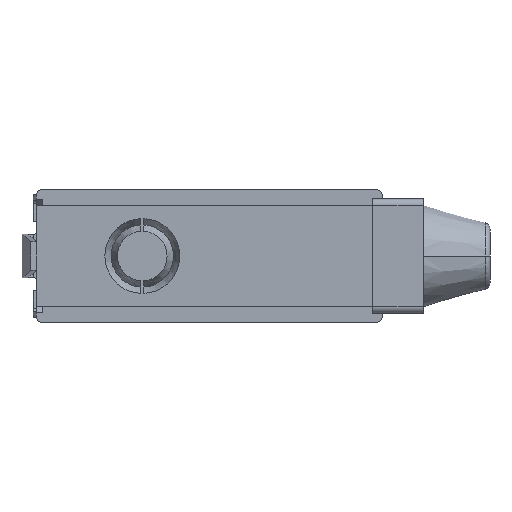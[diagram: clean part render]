
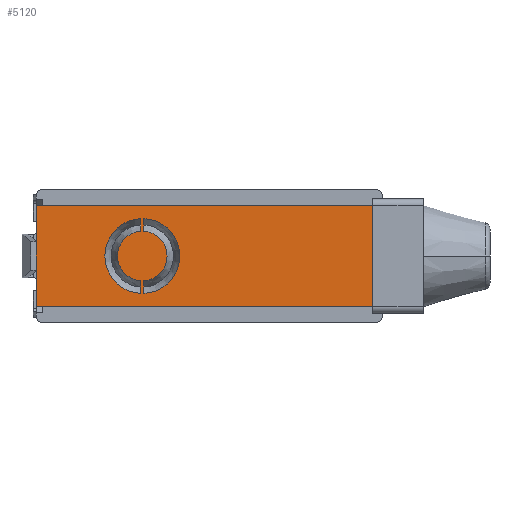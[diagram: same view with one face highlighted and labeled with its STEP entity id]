
A CAD part, front view. The second image highlights one B-rep face of the part: STEP entity #5120.
In plain terms, the highlighted planar face has unit normal (0, -1, 0).
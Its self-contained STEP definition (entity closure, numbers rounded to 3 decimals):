
#33 = EDGE_CURVE ( 'NONE', #3273, #3270, #4090, .T. ) ;
#34 = EDGE_CURVE ( 'NONE', #3379, #3377, #2388, .T. ) ;
#55 = EDGE_CURVE ( 'NONE', #3381, #3380, #2391, .T. ) ;
#63 = EDGE_CURVE ( 'NONE', #3380, #3377, #4185, .T. ) ;
#69 = EDGE_CURVE ( 'NONE', #3268, #3272, #4203, .T. ) ;
#73 = EDGE_CURVE ( 'NONE', #3325, #3328, #4215, .T. ) ;
#86 = EDGE_CURVE ( 'NONE', #3280, #3328, #4254, .T. ) ;
#87 = EDGE_CURVE ( 'NONE', #3285, #3325, #4257, .T. ) ;
#123 = EDGE_CURVE ( 'NONE', #3379, #3381, #4365, .T. ) ;
#168 = VECTOR ( 'NONE', #4367, 1000. ) ;
#479 = AXIS2_PLACEMENT_3D ( 'NONE', #4086, #4093, #4094 ) ;
#480 = VECTOR ( 'NONE', #4092, 1000. ) ;
#1027 = ORIENTED_EDGE ( 'NONE', *, *, #69, .T. ) ;
#1028 = ORIENTED_EDGE ( 'NONE', *, *, #33, .T. ) ;
#1029 = ORIENTED_EDGE ( 'NONE', *, *, #1307, .F. ) ;
#1030 = ORIENTED_EDGE ( 'NONE', *, *, #123, .T. ) ;
#1031 = ORIENTED_EDGE ( 'NONE', *, *, #1274, .T. ) ;
#1032 = ORIENTED_EDGE ( 'NONE', *, *, #63, .T. ) ;
#1033 = ORIENTED_EDGE ( 'NONE', *, *, #34, .F. ) ;
#1034 = ORIENTED_EDGE ( 'NONE', *, *, #87, .T. ) ;
#1035 = ORIENTED_EDGE ( 'NONE', *, *, #55, .T. ) ;
#1036 = ORIENTED_EDGE ( 'NONE', *, *, #73, .T. ) ;
#1037 = ORIENTED_EDGE ( 'NONE', *, *, #86, .F. ) ;
#1038 = ORIENTED_EDGE ( 'NONE', *, *, #1296, .F. ) ;
#1274 = EDGE_CURVE ( 'NONE', #3272, #3273, #2420, .T. ) ;
#1296 = EDGE_CURVE ( 'NONE', #3285, #3280, #4581, .T. ) ;
#1307 = EDGE_CURVE ( 'NONE', #3268, #3270, #2429, .T. ) ;
#1344 = VECTOR ( 'NONE', #4187, 1000. ) ;
#1350 = VECTOR ( 'NONE', #4205, 1000. ) ;
#1354 = VECTOR ( 'NONE', #4217, 1000. ) ;
#1667 = AXIS2_PLACEMENT_3D ( 'NONE', #4605, #4618, #4619 ) ;
#1880 = AXIS2_PLACEMENT_3D ( 'NONE', #4513, #4514, #4515 ) ;
#1903 = VECTOR ( 'NONE', #4583, 1000. ) ;
#2388 = CIRCLE ( 'NONE', #479, 5.9 ) ;
#2391 = CIRCLE ( 'NONE', #17194, 3.9 ) ;
#2420 = CIRCLE ( 'NONE', #1880, 3.9 ) ;
#2429 = CIRCLE ( 'NONE', #1667, 5.9 ) ;
#3268 = VERTEX_POINT ( 'NONE', #14365 ) ;
#3270 = VERTEX_POINT ( 'NONE', #14367 ) ;
#3272 = VERTEX_POINT ( 'NONE', #14369 ) ;
#3273 = VERTEX_POINT ( 'NONE', #14370 ) ;
#3280 = VERTEX_POINT ( 'NONE', #14377 ) ;
#3285 = VERTEX_POINT ( 'NONE', #14382 ) ;
#3325 = VERTEX_POINT ( 'NONE', #14422 ) ;
#3328 = VERTEX_POINT ( 'NONE', #14425 ) ;
#3377 = VERTEX_POINT ( 'NONE', #14474 ) ;
#3379 = VERTEX_POINT ( 'NONE', #14476 ) ;
#3380 = VERTEX_POINT ( 'NONE', #14477 ) ;
#3381 = VERTEX_POINT ( 'NONE', #14478 ) ;
#3917 = EDGE_LOOP ( 'NONE', ( #1028, #1029, #1027, #1031 ) ) ;
#3918 = EDGE_LOOP ( 'NONE', ( #1032, #1033, #1030, #1035 ) ) ;
#3926 = EDGE_LOOP ( 'NONE', ( #1036, #1037, #1038, #1034 ) ) ;
#4086 = CARTESIAN_POINT ( 'NONE',  ( -10.55, -19.6, 0. ) ) ;
#4090 = LINE ( 'NONE', #4091, #480 ) ;
#4091 = CARTESIAN_POINT ( 'NONE',  ( -10.3, -19.6, -5.9 ) ) ;
#4092 = DIRECTION ( 'NONE',  ( 0., 0., 1. ) ) ;
#4093 = DIRECTION ( 'NONE',  ( 0., -1., 0. ) ) ;
#4094 = DIRECTION ( 'NONE',  ( 0., 0., -1. ) ) ;
#4150 = CARTESIAN_POINT ( 'NONE',  ( -10.55, -19.6, 0. ) ) ;
#4157 = DIRECTION ( 'NONE',  ( 0., -1., 0. ) ) ;
#4158 = DIRECTION ( 'NONE',  ( 0., 0., -1. ) ) ;
#4185 = LINE ( 'NONE', #4186, #1344 ) ;
#4186 = CARTESIAN_POINT ( 'NONE',  ( -10.8, -19.6, -5.9 ) ) ;
#4187 = DIRECTION ( 'NONE',  ( 0., 0., -1. ) ) ;
#4203 = LINE ( 'NONE', #4204, #1350 ) ;
#4204 = CARTESIAN_POINT ( 'NONE',  ( -10.3, -19.6, -5.9 ) ) ;
#4205 = DIRECTION ( 'NONE',  ( 0., 0., 1. ) ) ;
#4215 = LINE ( 'NONE', #4216, #1354 ) ;
#4216 = CARTESIAN_POINT ( 'NONE',  ( -27.25, -19.6, 7.95 ) ) ;
#4217 = DIRECTION ( 'NONE',  ( 0., 0., -1. ) ) ;
#4254 = LINE ( 'NONE', #4255, #10547 ) ;
#4255 = CARTESIAN_POINT ( 'NONE',  ( 27.25, -19.6, -7.95 ) ) ;
#4256 = DIRECTION ( 'NONE',  ( -1., 0., 0. ) ) ;
#4257 = LINE ( 'NONE', #4258, #10548 ) ;
#4258 = CARTESIAN_POINT ( 'NONE',  ( 27.25, -19.6, 7.95 ) ) ;
#4259 = DIRECTION ( 'NONE',  ( -1., 0., 0. ) ) ;
#4365 = LINE ( 'NONE', #4366, #168 ) ;
#4366 = CARTESIAN_POINT ( 'NONE',  ( -10.8, -19.6, -5.9 ) ) ;
#4367 = DIRECTION ( 'NONE',  ( 0., 0., -1. ) ) ;
#4513 = CARTESIAN_POINT ( 'NONE',  ( -10.55, -19.6, 0. ) ) ;
#4514 = DIRECTION ( 'NONE',  ( 0., -1., 0. ) ) ;
#4515 = DIRECTION ( 'NONE',  ( 0., 0., -1. ) ) ;
#4581 = LINE ( 'NONE', #4582, #1903 ) ;
#4582 = CARTESIAN_POINT ( 'NONE',  ( 27.25, -19.6, 7.95 ) ) ;
#4583 = DIRECTION ( 'NONE',  ( 0., 0., -1. ) ) ;
#4605 = CARTESIAN_POINT ( 'NONE',  ( -10.55, -19.6, 0. ) ) ;
#4618 = DIRECTION ( 'NONE',  ( 0., -1., 0. ) ) ;
#4619 = DIRECTION ( 'NONE',  ( 0., 0., -1. ) ) ;
#5120 = ADVANCED_FACE ( 'NONE', ( #10530, #10537, #15409 ), #14788, .F. ) ;
#10530 = FACE_BOUND ( 'NONE', #3917, .T. ) ;
#10537 = FACE_BOUND ( 'NONE', #3918, .T. ) ;
#10547 = VECTOR ( 'NONE', #4256, 1000. ) ;
#10548 = VECTOR ( 'NONE', #4259, 1000. ) ;
#14365 = CARTESIAN_POINT ( 'NONE',  ( -10.3, -19.6, -5.895 ) ) ;
#14367 = CARTESIAN_POINT ( 'NONE',  ( -10.3, -19.6, 5.895 ) ) ;
#14369 = CARTESIAN_POINT ( 'NONE',  ( -10.3, -19.6, -3.892 ) ) ;
#14370 = CARTESIAN_POINT ( 'NONE',  ( -10.3, -19.6, 3.892 ) ) ;
#14377 = CARTESIAN_POINT ( 'NONE',  ( 27.25, -19.6, -7.95 ) ) ;
#14382 = CARTESIAN_POINT ( 'NONE',  ( 27.25, -19.6, 7.95 ) ) ;
#14422 = CARTESIAN_POINT ( 'NONE',  ( -27.25, -19.6, 7.95 ) ) ;
#14425 = CARTESIAN_POINT ( 'NONE',  ( -27.25, -19.6, -7.95 ) ) ;
#14474 = CARTESIAN_POINT ( 'NONE',  ( -10.8, -19.6, -5.895 ) ) ;
#14476 = CARTESIAN_POINT ( 'NONE',  ( -10.8, -19.6, 5.895 ) ) ;
#14477 = CARTESIAN_POINT ( 'NONE',  ( -10.8, -19.6, -3.892 ) ) ;
#14478 = CARTESIAN_POINT ( 'NONE',  ( -10.8, -19.6, 3.892 ) ) ;
#14788 = PLANE ( 'NONE',  #15411 ) ;
#14789 = CARTESIAN_POINT ( 'NONE',  ( 27.25, -19.6, 7.95 ) ) ;
#14790 = DIRECTION ( 'NONE',  ( 0., 1., 0. ) ) ;
#14791 = DIRECTION ( 'NONE',  ( 0., 0., 1. ) ) ;
#15409 = FACE_OUTER_BOUND ( 'NONE', #3926, .T. ) ;
#15411 = AXIS2_PLACEMENT_3D ( 'NONE', #14789, #14790, #14791 ) ;
#17194 = AXIS2_PLACEMENT_3D ( 'NONE', #4150, #4157, #4158 ) ;
